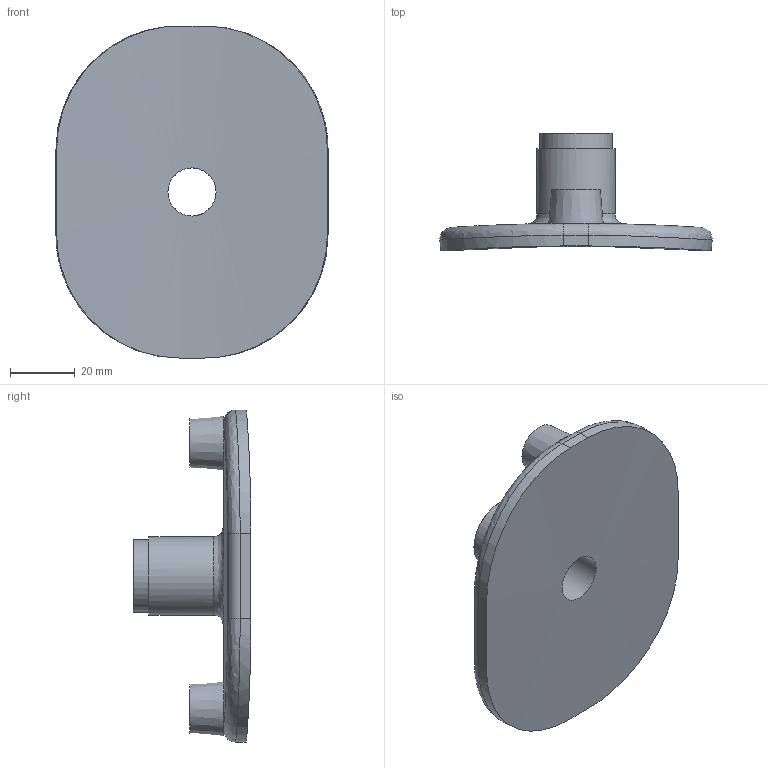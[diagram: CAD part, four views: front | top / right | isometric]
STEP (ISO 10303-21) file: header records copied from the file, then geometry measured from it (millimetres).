
FILE_DESCRIPTION(/* description */ ('PLASSON SENSOR ADAPTOR WITH STAINLESS STEEL THREAD 18''''48''''IPSx1/2'''''),/* implementation_level */ '2;1');
FILE_NAME(/* name */ 'C:\Dropbox\KIMPROJECTS-Inventor 2019\99-16-3568-Processing Inch\ASTM ElectroFusion 2021\5938S\5938S3900005.ipt.stp',/* time_stamp */ '2021-08-30T09:52:53+03:00',/* author */ ('Кирилл'),/* organization */ (''),/* preprocessor_version */ 'ST-DEVELOPER v17.2',/* originating_system */ 'Autodesk Inventor 2019',/* authorisation */ '');
FILE_SCHEMA (('AUTOMOTIVE_DESIGN { 1 0 10303 214 3 1 1 }'));
Length unit declared in the file: inch
Products named in the file (1): 5938S3900005
Bounding box: 84.33 x 36.5 x 102.87 mm (x, y, z)
Volume: 59339.7 mm3; surface area: 21961.4 mm2
Topology: 1 solids, 1 shells, 43 faces, 96 edges, 62 vertices
Faces by surface type: cylinder 19, plane 12, cone 5, bspline 5, torus 2
Full cylindrical faces by diameter (mm): 4 x2, 10 x2, 14.905 x1, 18.631 x1, 22.357 x1, 24.22 x1
Entity records: 1763 total; most frequent: CARTESIAN_POINT 788, ORIENTED_EDGE 194, DIRECTION 182, EDGE_CURVE 97, AXIS2_PLACEMENT_3D 77, VERTEX_POINT 63, EDGE_LOOP 52, FACE_OUTER_BOUND 43
